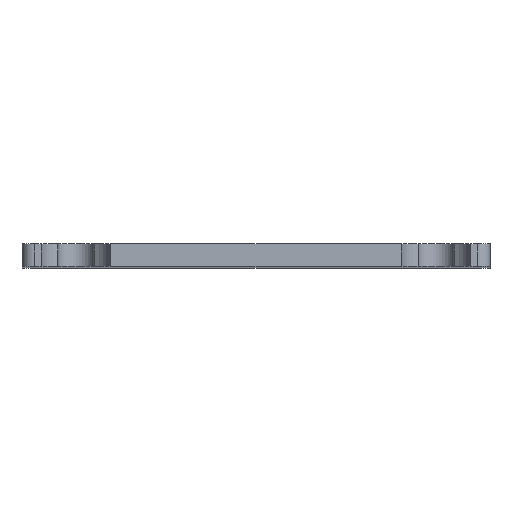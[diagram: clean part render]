
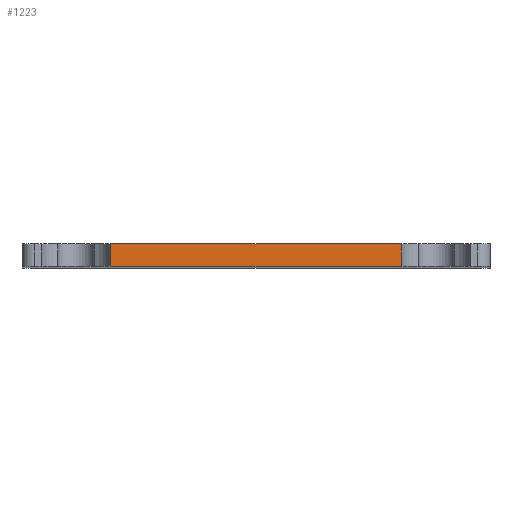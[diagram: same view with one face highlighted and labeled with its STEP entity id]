
A CAD part, top view. The second image highlights one B-rep face of the part: STEP entity #1223.
In plain terms, the highlighted planar face has unit normal (0, 0, 1).
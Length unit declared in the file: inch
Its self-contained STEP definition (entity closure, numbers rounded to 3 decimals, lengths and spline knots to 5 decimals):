
#397=DIRECTION('',(0.,1.,0.));
#398=VECTOR('',#397,0.125);
#399=CARTESIAN_POINT('',(-0.80635,-0.125,2.9));
#400=LINE('',#399,#398);
#405=DIRECTION('',(1.,0.,0.));
#406=VECTOR('',#405,1.6127);
#407=CARTESIAN_POINT('',(-0.80635,-0.125,2.9));
#408=LINE('',#407,#406);
#409=DIRECTION('',(-1.,0.,0.));
#410=VECTOR('',#409,1.6127);
#411=CARTESIAN_POINT('',(0.80635,0.,2.9));
#412=LINE('',#411,#410);
#417=DIRECTION('',(0.,-1.,0.));
#418=VECTOR('',#417,0.125);
#419=CARTESIAN_POINT('',(0.80635,0.,2.9));
#420=LINE('',#419,#418);
#611=CARTESIAN_POINT('',(0.80635,0.,2.9));
#612=VERTEX_POINT('',#611);
#613=CARTESIAN_POINT('',(-0.80635,0.,2.9));
#614=VERTEX_POINT('',#613);
#675=CARTESIAN_POINT('',(0.80635,-0.125,2.9));
#676=VERTEX_POINT('',#675);
#677=CARTESIAN_POINT('',(-0.80635,-0.125,2.9));
#678=VERTEX_POINT('',#677);
#1211=CARTESIAN_POINT('',(0.,-0.0625,2.9));
#1212=DIRECTION('',(0.,0.,1.));
#1213=DIRECTION('',(1.,0.,0.));
#1214=AXIS2_PLACEMENT_3D('',#1211,#1212,#1213);
#1215=PLANE('',#1214);
#1217=ORIENTED_EDGE('',*,*,#1216,.T.);
#1218=ORIENTED_EDGE('',*,*,#990,.F.);
#1219=ORIENTED_EDGE('',*,*,#1204,.T.);
#1220=ORIENTED_EDGE('',*,*,#792,.F.);
#1221=EDGE_LOOP('',(#1217,#1218,#1219,#1220));
#1222=FACE_OUTER_BOUND('',#1221,.F.);
#1223=ADVANCED_FACE('',(#1222),#1215,.T.);
#792=EDGE_CURVE('',#612,#614,#412,.T.);
#990=EDGE_CURVE('',#678,#676,#408,.T.);
#1204=EDGE_CURVE('',#678,#614,#400,.T.);
#1216=EDGE_CURVE('',#612,#676,#420,.T.);
